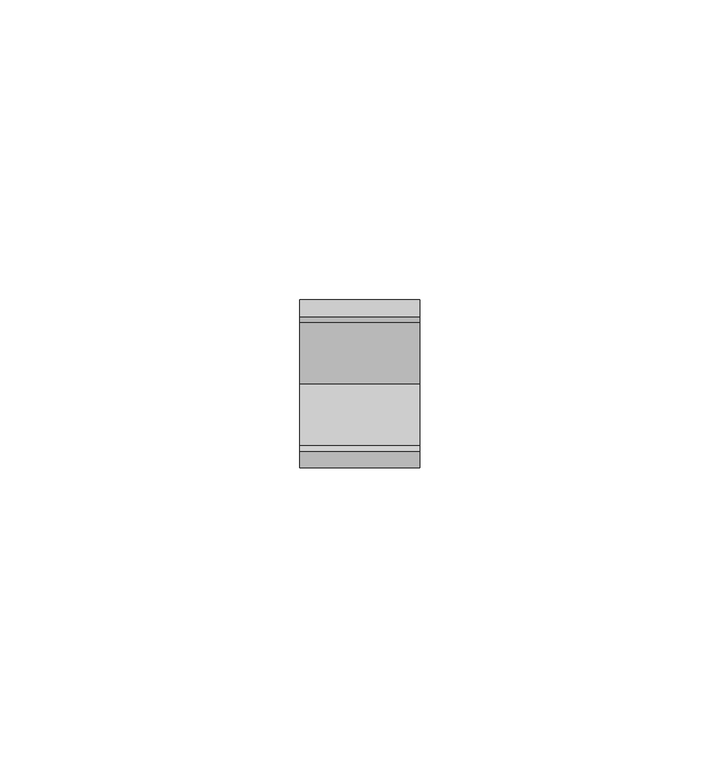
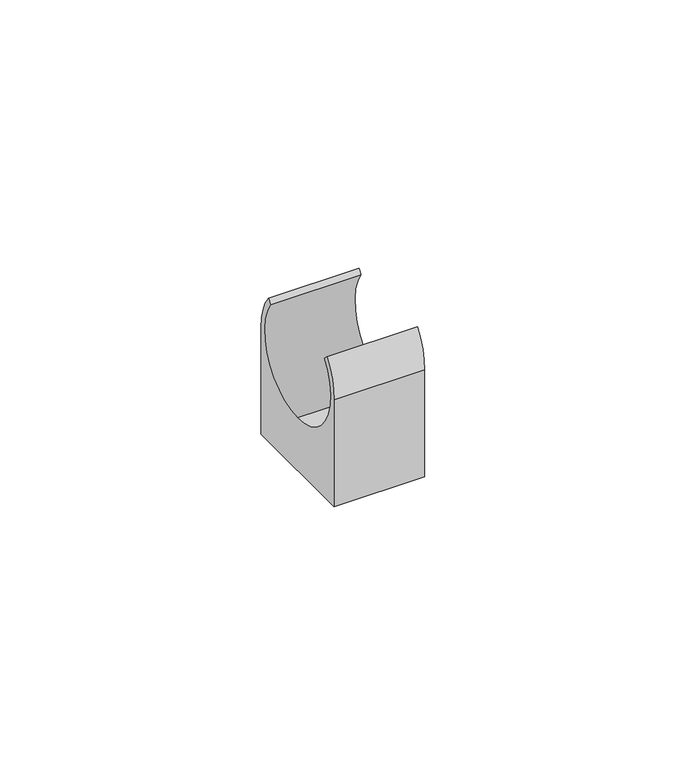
"""IFC4 building model written with IfcOpenShell, lengths in millimetres: cable carrier fitting geometry."""

from ifc_helpers import new_model, si_unit, point, frame, origin, origin_2d, place, context, project, spatial, polyline, circle_curve, trimmed, segment, composite_curve, outline, extrude, source, transform, mapped, element, save


def cable_carrier_fitting_b8314db6(model_context):
    return source(origin(), model_context, "Body", "SweptSolid", [
        extrude(outline(composite_curve([segment(trimmed(circle_curve(origin_2d(), 12.7512632), [point((0.0, -12.7512632))], [point((10.3243712, 7.4834533))], True, "CARTESIAN"), True, "CONTINUOUS"), segment(polyline([(10.3243712, 7.4834533), (11.2175144, 8.3765966)]), True, "CONTINUOUS"), segment(trimmed(circle_curve(origin_2d(), 14.0), [point((11.2175144, 8.3765966))], [point((14.0, 0.0))], False, "CARTESIAN"), True, "CONTINUOUS"), segment(polyline([(14.0, 0.0), (14.0, -25.0), (-14.0, -25.0), (-14.0, 0.0)]), True, "CONTINUOUS"), segment(trimmed(circle_curve(origin_2d(), 14.0), [point((-14.0, 0.0))], [point((-11.2175144, 8.3765966))], False, "CARTESIAN"), True, "CONTINUOUS"), segment(polyline([(-11.2175144, 8.3765966), (-10.3243712, 7.4834533)]), True, "CONTINUOUS"), segment(trimmed(circle_curve(origin_2d(), 12.7512632), [point((-10.3243712, 7.4834533))], [point((0.0, -12.7512632))], True, "CARTESIAN"), True, "CONTINUOUS")], self_intersect=False)), frame((-10.0, 0.0, 0.0), z_axis=(1.0, 0.0, 0.0), x_axis=(0.0, 1.0, 0.0)), (0.0, 0.0, 1.0), 20.0),
    ])


if __name__ == "__main__":
    model = new_model("IFC4")
    model_context = context("Model", 3, world=origin())
    ifc_project = project(units=[si_unit("LENGTHUNIT", "METRE", prefix="MILLI")], contexts=[model_context])
    site = spatial("IfcSite", under=ifc_project)
    building = spatial("IfcBuilding", under=site)
    placement = place(None, origin())
    cable_carrier_fitting_shape = cable_carrier_fitting_b8314db6(model_context)
    element("IfcCableCarrierFitting", 1, ObjectType="Крепеж-клипса_для_труб : Крепеж-клипса для трубы 25мм \"ЭКО\" (бук)", at=placement, inside=building, context=model_context, shape_type="MappedRepresentation", body=[
        mapped(cable_carrier_fitting_shape, transform((0.0, 0.0, 0.0), x_axis=(1.0, 0.0, 0.0), y_axis=(0.0, 1.0, 0.0), z_axis=(0.0, 0.0, 1.0))),
    ])
    save(model, "model.ifc")
